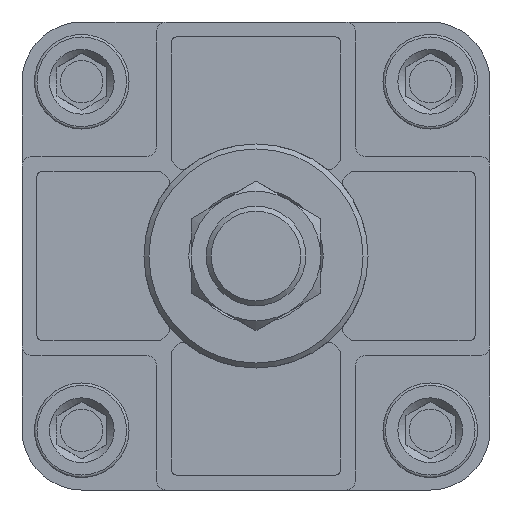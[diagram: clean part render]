
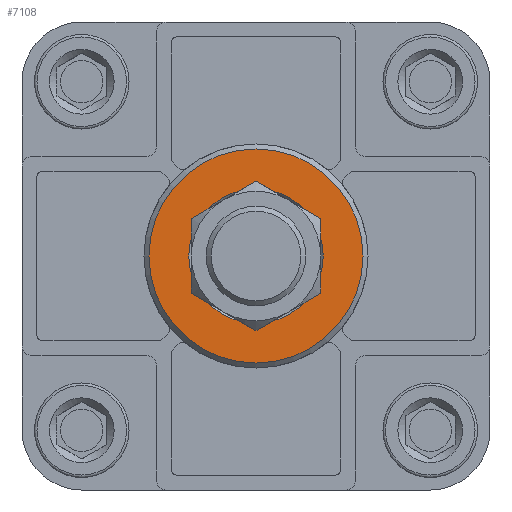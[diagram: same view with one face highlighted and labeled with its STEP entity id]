
A CAD part, front view. The second image highlights one B-rep face of the part: STEP entity #7108.
In plain terms, the highlighted planar face has unit normal (0, -1, 0).
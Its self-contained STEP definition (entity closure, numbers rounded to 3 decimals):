
#1174=ORIENTED_EDGE('',*,*,#2693,.T.);
#1175=ORIENTED_EDGE('',*,*,#2695,.T.);
#2693=EDGE_CURVE('',#3455,#3455,#3981,.T.);
#2695=EDGE_CURVE('',#3457,#3457,#3983,.F.);
#3455=VERTEX_POINT('',#9778);
#3457=VERTEX_POINT('',#9784);
#3981=CIRCLE('',#7466,13.5);
#3983=CIRCLE('',#7470,21.5);
#4261=EDGE_LOOP('',(#1174));
#4262=EDGE_LOOP('',(#1175));
#4701=FACE_BOUND('',#4261,.T.);
#4702=FACE_BOUND('',#4262,.T.);
#5133=PLANE('',#7469);
#7108=ADVANCED_FACE('',(#4701,#4702),#5133,.F.);
#7466=AXIS2_PLACEMENT_3D('',#9777,#8094,#8095);
#7469=AXIS2_PLACEMENT_3D('',#9782,#8100,#8101);
#7470=AXIS2_PLACEMENT_3D('',#9783,#8102,#8103);
#8094=DIRECTION('',(0.,1.,0.));
#8095=DIRECTION('',(0.,0.,1.));
#8100=DIRECTION('',(0.,1.,0.));
#8101=DIRECTION('',(0.,0.,1.));
#8102=DIRECTION('',(0.,1.,0.));
#8103=DIRECTION('',(0.,0.,1.));
#9777=CARTESIAN_POINT('',(0.,-56.,0.));
#9778=CARTESIAN_POINT('',(0.,-56.,13.5));
#9782=CARTESIAN_POINT('',(0.,-56.,0.));
#9783=CARTESIAN_POINT('',(0.,-56.,0.));
#9784=CARTESIAN_POINT('',(0.,-56.,21.5));
